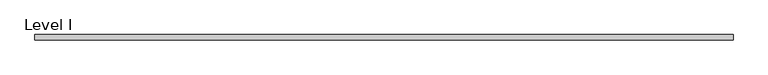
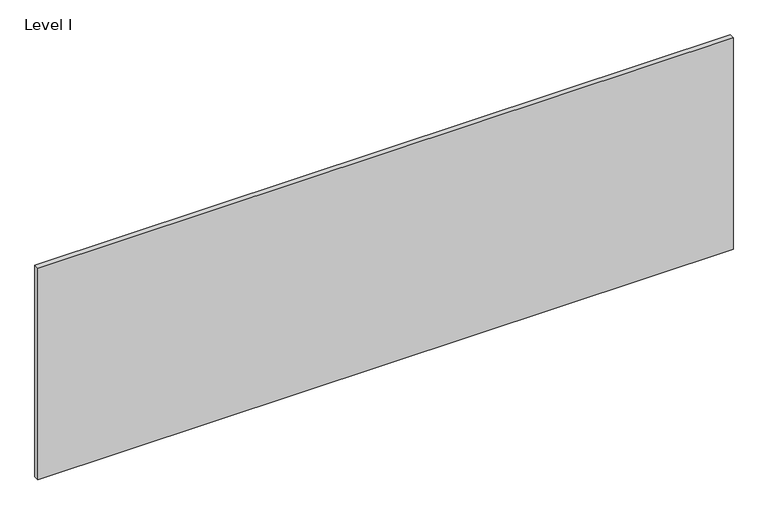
"""IFC4 building model written with IfcOpenShell, lengths in millimetres: proxy geometry, Panel-Fascia-Teknion-Altos-Landscape : Level I."""

from ifc_helpers import new_model, si_unit, frame, origin, place, context, project, spatial, polyline, outline, extrude, source, transform, mapped, element, save


def level_i_b17bdb42(model_context):
    return source(origin(), model_context, "Body", "SweptSolid", [
        extrude(outline(polyline([(1259.8356344, -9.525), (-1259.8356344, -9.525), (-1259.8356344, 9.525), (1259.8356344, 9.525), (1259.8356344, -9.525)])), frame((0.0, 0.0, 3.175), z_axis=(0.0, 0.0, 1.0), x_axis=(1.0, 0.0, 0.0)), (0.0, 0.0, 1.0), 810.768),
    ])


if __name__ == "__main__":
    model = new_model("IFC4")
    model_context = context("Model", 3, world=origin())
    ifc_project = project(units=[si_unit("LENGTHUNIT", "METRE", prefix="MILLI")], contexts=[model_context])
    site = spatial("IfcSite", under=ifc_project)
    building = spatial("IfcBuilding", under=site)
    placement = place(None, origin())
    level_i_shape = level_i_b17bdb42(model_context)
    element("IfcBuildingElementProxy", 1, Name="Panel-Fascia-Teknion-Altos-Landscape : Level I", ObjectType="Panel-Fascia-Teknion-Altos-Landscape : Level I", at=placement, inside=building, context=model_context, shape_type="MappedRepresentation", body=[
        mapped(level_i_shape, transform((0.0, 0.0, 0.0), x_axis=(1.0, 0.0, 0.0), y_axis=(0.0, 1.0, 0.0), z_axis=(0.0, 0.0, 1.0))),
    ])
    save(model, "model.ifc")
